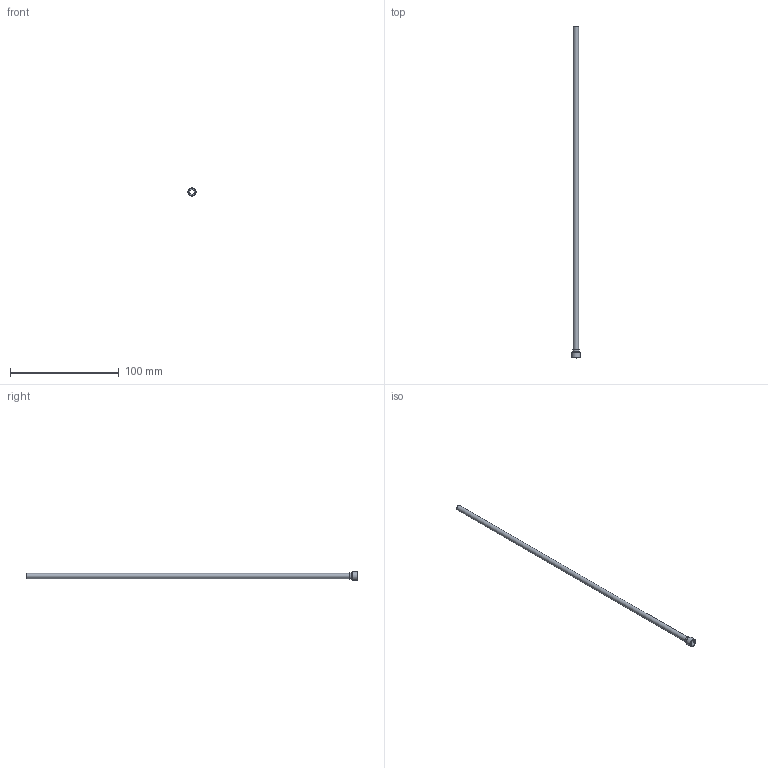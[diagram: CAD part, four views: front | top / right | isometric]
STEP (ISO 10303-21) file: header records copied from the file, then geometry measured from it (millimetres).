
FILE_DESCRIPTION(/* description */ (''),/* implementation_level */ '2;1');
FILE_NAME(/* name */ 'C:/Users/drich/Desktop/PT16-187-12 v1.step',/* time_stamp */ '2019-12-27T15:20:18-06:00',/* author */ (''),/* organization */ (''),/* preprocessor_version */ 'ST-DEVELOPER v18',/* originating_system */ 'Autodesk Translation Framework v8.12.0.6',/* authorisation */ '');
FILE_SCHEMA (('AUTOMOTIVE_DESIGN { 1 0 10303 214 3 1 1 }'));
Length unit declared in the file: inch
Products named in the file (1): PT16-187-12
Bounding box: 7.62 x 304.8 x 7.62 mm (x, y, z)
Volume: 1219 mm3; surface area: 8692.6 mm2
Topology: 1 solids, 1 shells, 25 faces, 62 edges, 41 vertices
Faces by surface type: plane 16, cylinder 5, torus 2, cone 2
Full cylindrical faces by diameter (mm): 3.962 x1, 4.242 x1, 4.724 x1, 5.969 x1, 7.616 x1
Entity records: 798 total; most frequent: DIRECTION 145, CARTESIAN_POINT 129, ORIENTED_EDGE 124, EDGE_CURVE 62, AXIS2_PLACEMENT_3D 57, VERTEX_POINT 41, LINE 31, VECTOR 31
